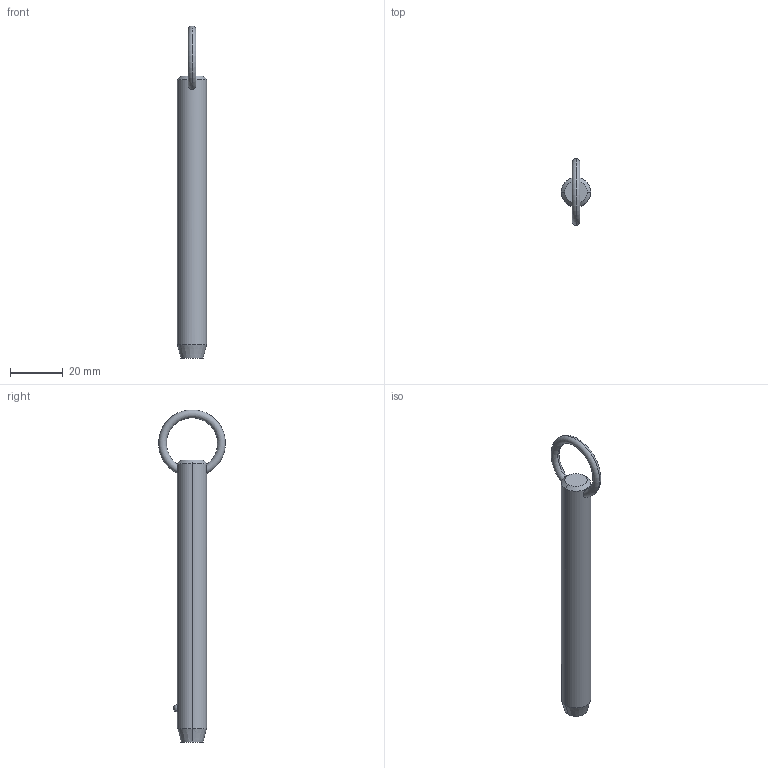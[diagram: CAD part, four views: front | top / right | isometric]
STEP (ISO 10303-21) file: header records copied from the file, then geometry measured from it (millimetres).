
FILE_DESCRIPTION (( 'STEP AP203' ), '1' );
FILE_NAME ('P1250.050-340.step', '2019-07-29T20:34:41', ( '' ), ( '' ), 'SwSTEP 2.0', 'SolidWorks 2017', '' );
FILE_SCHEMA (( 'CONFIG_CONTROL_DESIGN' ));
Length unit declared in the file: millimetre
Products named in the file (1): P1250.050-340
Bounding box: 11.1 x 25.32 x 125.95 mm (x, y, z)
Volume: 10637 mm3; surface area: 4383.9 mm2
Topology: 1 solids, 1 shells, 12 faces, 28 edges, 17 vertices
Faces by surface type: cone 4, torus 2, sphere 2, cylinder 2, plane 2
Entity records: 523 total; most frequent: CARTESIAN_POINT 190, DIRECTION 56, ORIENTED_EDGE 48, AXIS2_PLACEMENT_3D 25, EDGE_CURVE 24, VERTEX_POINT 15, EDGE_LOOP 15, CIRCLE 12
